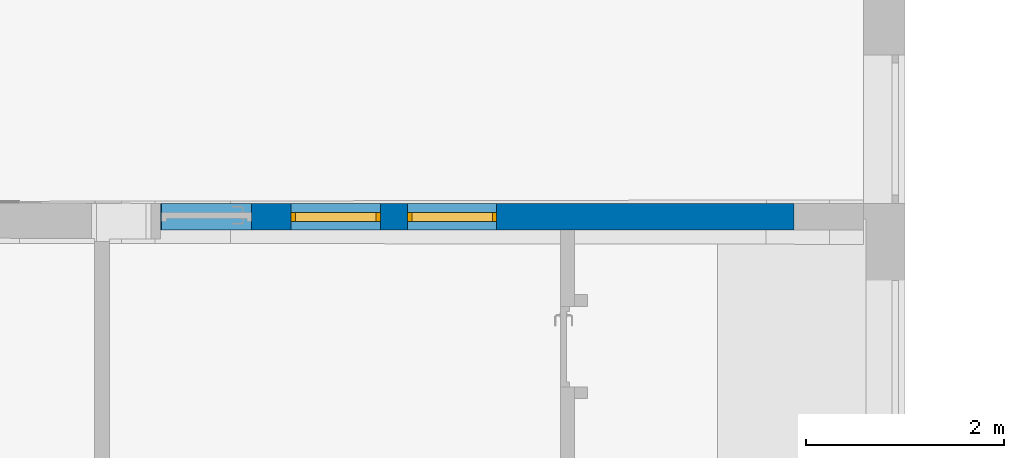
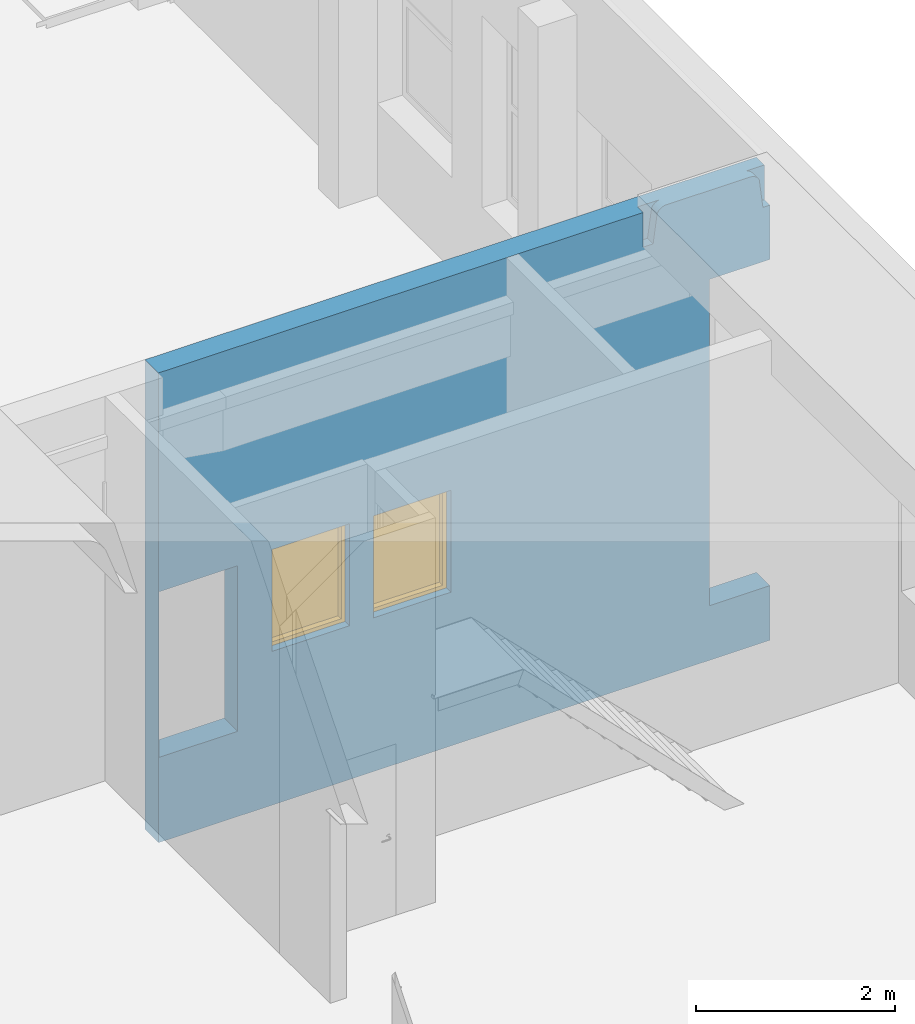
# One storey, part 100 of 301: 2 windows, 1 wall, 3 openings.
"""IFC2X3 building model written with IfcOpenShell, lengths in millimetres."""

from ifc_helpers import new_model, entity, si_unit, converted_unit, derived_unit, money_unit, direction, frame, origin_with_axes, place, context, subcontext, project, spatial, open_shell, faceted_brep, surface_model, source, transform, mapped, material, type_object, element, fill, save


model = new_model("IFC2X3")

# Units and contexts
model_context = context("Model", 3, precision=0.01, world=origin_with_axes(), true_north=direction((0.0, 1.0)))
body_context = subcontext(model_context, "Body", "Model", "MODEL_VIEW")
ifc_project = project(units=[si_unit("LENGTHUNIT", "METRE", prefix="MILLI"), si_unit("AREAUNIT", "SQUARE_METRE"), si_unit("VOLUMEUNIT", "CUBIC_METRE"), converted_unit("PLANEANGLEUNIT", "DEGREE", entity("IfcPlaneAngleMeasure", 0.0174532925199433), si_unit("PLANEANGLEUNIT", "RADIAN"), dimensions=[0, 0, 0, 0, 0, 0, 0]), money_unit("EUR"), converted_unit("TIMEUNIT", "Year", entity("IfcTimeMeasure", 31557600.0), si_unit("TIMEUNIT", "SECOND"), dimensions=[0, 0, 1, 0, 0, 0, 0]), si_unit("MASSUNIT", "GRAM", prefix="KILO"), si_unit("THERMODYNAMICTEMPERATUREUNIT", "DEGREE_CELSIUS"), si_unit("LUMINOUSINTENSITYUNIT", "LUMEN"), si_unit("ENERGYUNIT", "JOULE", prefix="MEGA"), derived_unit("THERMALCONDUCTANCEUNIT", [(si_unit("POWERUNIT", "WATT"), 1), (si_unit("LENGTHUNIT", "METRE"), -1), (si_unit("THERMODYNAMICTEMPERATUREUNIT", "KELVIN"), -1)]), derived_unit("SPECIFICHEATCAPACITYUNIT", [(si_unit("ENERGYUNIT", "JOULE"), 1), (si_unit("MASSUNIT", "GRAM", prefix="KILO"), -1), (si_unit("THERMODYNAMICTEMPERATUREUNIT", "KELVIN"), -1)]), derived_unit("MASSDENSITYUNIT", [(si_unit("MASSUNIT", "GRAM", prefix="KILO"), 1), (si_unit("VOLUMEUNIT", "CUBIC_METRE"), -1)])], contexts=[model_context])

# Site, building, storey
site_placement = place(None, frame((0.0, 0.0, 8650.0), z_axis=(0.0, 0.0, 1.0), x_axis=(1.0, 0.0, 0.0)))
site = spatial("IfcSite", under=ifc_project, at=site_placement, Name="43301:001:0844", CompositionType="ELEMENT")
building_placement = place(site_placement, origin_with_axes())
building = spatial("IfcBuilding", under=site, at=building_placement, Name="Kuressaare Ametikooli tuulikute mehaanikute õppekorpus", CompositionType="ELEMENT")
storey_placement = place(building_placement, origin_with_axes())
storey = spatial("IfcBuildingStorey", under=building, at=storey_placement, Name="1.korrus", CompositionType="ELEMENT", Elevation=0.0)

# Wall, openings, windows
ifc_material = material(Name="GENEERILINE - KONSTRUKTRIOON")
wall_type = type_object("IfcWallType", Name="GENEERILINE - KONSTRUKTRIOON 270", PredefinedType="NOTDEFINED")
wall_placement = place(storey_placement, frame((103647.5122070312, 74565.19261974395, -1000.0), z_axis=(0.0, 0.0, 1.0), x_axis=(-1.0, 0.0, 0.0)))
wall = element("IfcWall", 1, at=wall_placement, inside=storey, type_object=wall_type, material=ifc_material, Name="SS-XX", context=body_context, shape_type="Brep", body=[
    faceted_brep([(557.0435186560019, 269.999999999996, 5711.307632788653), (574.2249064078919, 269.999999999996, 5730.19993142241), (594.999092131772, 269.999999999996, 5745.050932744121), (618.4345847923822, 269.999999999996, 5755.194734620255), (642.5932021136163, 269.999999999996, 5760.0), (1630.032533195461, 269.999999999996, 5760.0), (1654.35116008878, 269.999999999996, 5755.986306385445), (1678.13938203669, 269.999999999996, 5746.154578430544), (1699.084482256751, 269.999999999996, 5731.193122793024), (1716.099046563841, 269.999999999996, 5711.878698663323), (1728.299723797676, 269.999999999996, 5689.214059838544), (1775.113922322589, 269.999999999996, 5335.0), (1891.625828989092, 269.999999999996, 5335.0), (1891.625828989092, 269.999999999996, 5760.0), (7512.258369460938, 269.999999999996, 5760.0), (7512.258369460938, 269.999999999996, 0.0), (420.0000000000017, 269.999999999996, 0.0), (420.0000000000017, 269.999999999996, 669.9999999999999), (1120.000013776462, 269.999999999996, 669.9999999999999), (1120.000013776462, 269.999999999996, 4670.000000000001), (420.0000000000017, 269.999999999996, 4670.000000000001), (419.9999999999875, 269.999999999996, 5335.0), (501.4769658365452, 269.999999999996, 5335.0), (544.2253229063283, 269.999999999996, 5689.221146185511), (6193.933258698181, 269.999999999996, 1885.257244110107), (6193.933258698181, 269.999999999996, 3135.257244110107), (5293.933258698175, 269.999999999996, 3135.257244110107), (5293.933258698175, 269.999999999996, 1885.257244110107), (4120.371742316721, 269.999999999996, 3135.257244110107), (4120.371742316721, 269.999999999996, 1885.257244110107), (5020.371742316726, 269.999999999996, 1885.257244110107), (5020.371742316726, 269.999999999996, 3135.257244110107), (7502.316618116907, 269.999999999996, 1045.0), (7502.316618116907, 269.999999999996, 3075.0), (6592.316618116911, 269.999999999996, 3075.0), (6592.316618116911, 269.999999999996, 1045.0), (557.0435186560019, 157.9670458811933, 5711.307632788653), (574.2249064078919, 157.9670458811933, 5730.19993142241), (594.999092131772, 157.9670458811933, 5745.050932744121), (618.4345847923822, 157.9670458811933, 5755.194734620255), (642.5932021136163, 157.9670458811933, 5760.0), (419.9999999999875, 157.9670458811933, 5760.0), (419.9999999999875, 0.0, 5760.0), (7511.497789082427, 0.0, 5760.0), (1891.625828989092, 157.9670458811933, 5760.0), (1630.032533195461, 157.9670458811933, 5760.0), (1654.35116008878, 157.9670458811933, 5755.986306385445), (1678.13938203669, 157.9670458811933, 5746.154578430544), (1699.084482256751, 157.9670458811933, 5731.193122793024), (1716.099046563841, 157.9670458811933, 5711.878698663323), (1728.299723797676, 157.9670458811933, 5689.214059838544), (1775.113922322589, 157.9670458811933, 5335.0), (1891.625828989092, 157.9670458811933, 5335.0), (7511.497789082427, 0.0, 0.0), (420.0000000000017, 0.0, 0.0), (420.0000000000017, 0.0, 669.9999999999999), (1120.000013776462, 0.0, 669.9999999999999), (1120.000013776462, 0.0, 4670.000000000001), (420.0000000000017, 0.0, 4670.000000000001), (419.9999999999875, 157.9670458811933, 5335.0), (501.4769658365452, 157.9670458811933, 5335.0), (544.2253229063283, 157.9670458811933, 5689.221146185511), (6193.933258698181, 0.0, 1885.257244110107), (6193.933258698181, 0.0, 3135.257244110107), (5293.933258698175, 0.0, 3135.257244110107), (5293.933258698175, 0.0, 1885.257244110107), (4120.371742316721, 0.0, 3135.257244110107), (4120.371742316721, 0.0, 1885.257244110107), (5020.371742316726, 0.0, 1885.257244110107), (5020.371742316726, 0.0, 3135.257244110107), (7502.316618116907, 0.0, 1045.0), (7502.316618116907, 0.0, 3075.0), (6592.316618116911, 0.0, 3075.0), (6592.316618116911, 0.0, 1045.0)], [[[0, 1, 2, 3, 4, 5, 6, 7, 8, 9, 10, 11, 12, 13, 14, 15, 16, 17, 18, 19, 20, 21, 22, 23], [24, 25, 26, 27], [28, 29, 30, 31], [32, 33, 34, 35]], [[1, 0, 36, 37]], [[2, 1, 37, 38]], [[3, 2, 38, 39]], [[4, 3, 39, 40]], [[4, 40, 41, 42, 43, 14, 13, 44, 45, 5]], [[5, 45, 46, 6]], [[7, 6, 46, 47]], [[8, 7, 47, 48]], [[9, 8, 48, 49]], [[10, 9, 49, 50]], [[11, 10, 50, 51]], [[12, 11, 51, 52]], [[44, 13, 12, 52]], [[15, 14, 43, 53]], [[54, 16, 15, 53]], [[17, 16, 54, 55]], [[55, 56, 18, 17]], [[57, 19, 18, 56]], [[58, 20, 19, 57]], [[21, 20, 58, 42, 41, 59]], [[21, 59, 60, 22]], [[23, 22, 60, 61]], [[0, 23, 61, 36]], [[25, 24, 62, 63]], [[64, 26, 25, 63]], [[65, 27, 26, 64]], [[24, 27, 65, 62]], [[28, 66, 67, 29]], [[67, 68, 30, 29]], [[68, 69, 31, 30]], [[31, 69, 66, 28]], [[33, 32, 70, 71]], [[72, 34, 33, 71]], [[73, 35, 34, 72]], [[32, 35, 73, 70]], [[61, 60, 59, 41, 40, 39, 38, 37, 36]], [[42, 58, 57, 56, 55, 54, 53, 43], [65, 64, 63, 62], [69, 68, 67, 66], [73, 72, 71, 70]], [[47, 46, 45, 44, 52, 51, 50, 49, 48]]]),
])
opening_1_placement = place(wall_placement, frame((5743.933258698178, 0.0, 1885.257244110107), z_axis=(0.0, 0.0, 1.0), x_axis=(1.0, 0.0, 0.0)))
opening_1 = element("IfcOpeningElement", 2, at=opening_1_placement, cuts=wall, Name="SA-XX", context=body_context, shape_type="Brep", body=[
    faceted_brep([(450.0000000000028, 90.00000000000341, 0.0), (450.0000000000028, 90.00000000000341, 1250.0), (450.0000000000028, -1.000000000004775, 1250.0), (450.0000000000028, -1.000000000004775, 0.0), (450.0000000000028, 271.0000000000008, 0.0), (450.0000000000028, 271.0000000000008, 1250.0), (-450.0000000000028, 90.00000000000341, 1250.0), (-450.0000000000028, -1.000000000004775, 1250.0), (-450.0000000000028, 271.0000000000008, 1250.0), (-450.0000000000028, -1.000000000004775, 0.0), (-450.0000000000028, 90.00000000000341, 0.0), (-450.0000000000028, 271.0000000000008, 0.0)], [[[0, 1, 2, 3]], [[1, 0, 4, 5]], [[6, 7, 2, 1, 5, 8]], [[7, 9, 3, 2]], [[0, 3, 9, 10, 11, 4]], [[5, 4, 11, 8]], [[6, 10, 9, 7]], [[10, 6, 8, 11]]]),
])
opening_2_placement = place(wall_placement, frame((4570.371742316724, 0.0, 1885.257244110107), z_axis=(0.0, 0.0, 1.0), x_axis=(1.0, 0.0, 0.0)))
opening_2 = element("IfcOpeningElement", 3, at=opening_2_placement, cuts=wall, Name="SA-XX", context=body_context, shape_type="Brep", body=[
    faceted_brep([(450.0000000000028, 90.00000000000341, 0.0), (450.0000000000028, 90.00000000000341, 1250.0), (450.0000000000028, -1.000000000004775, 1250.0), (450.0000000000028, -1.000000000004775, 0.0), (450.0000000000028, 271.0000000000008, 0.0), (450.0000000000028, 271.0000000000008, 1250.0), (-450.0000000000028, 90.00000000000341, 1250.0), (-450.0000000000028, -1.000000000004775, 1250.0), (-450.0000000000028, 271.0000000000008, 1250.0), (-450.0000000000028, -1.000000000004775, 0.0), (-450.0000000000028, 90.00000000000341, 0.0), (-450.0000000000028, 271.0000000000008, 0.0)], [[[0, 1, 2, 3]], [[1, 0, 4, 5]], [[6, 7, 2, 1, 5, 8]], [[7, 9, 3, 2]], [[0, 3, 9, 10, 11, 4]], [[5, 4, 11, 8]], [[6, 10, 9, 7]], [[10, 6, 8, 11]]]),
])
opening_3_placement = place(wall_placement, frame((7047.316618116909, 0.0, 1045.0), z_axis=(0.0, 0.0, 1.0), x_axis=(1.0, 0.0, 0.0)))
element("IfcOpeningElement", 4, at=opening_3_placement, cuts=wall, Name="SU-XX", context=body_context, shape_type="Brep", body=[
    faceted_brep([(454.9999999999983, 90.00000000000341, 0.0), (454.9999999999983, 90.00000000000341, 2030.0), (454.9999999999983, -1.000000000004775, 2030.0), (454.9999999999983, -1.000000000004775, 0.0), (454.9999999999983, 271.0000000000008, 0.0), (454.9999999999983, 271.0000000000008, 2030.0), (-454.9999999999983, 90.00000000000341, 2030.0), (-454.9999999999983, -1.000000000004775, 2030.0), (-454.9999999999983, 271.0000000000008, 2030.0), (-454.9999999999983, -1.000000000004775, 0.0), (-454.9999999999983, 90.00000000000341, 0.0), (-454.9999999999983, 271.0000000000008, 0.0)], [[[0, 1, 2, 3]], [[1, 0, 4, 5]], [[6, 7, 2, 1, 5, 8]], [[7, 9, 3, 2]], [[0, 3, 9, 10, 11, 4]], [[5, 4, 11, 8]], [[6, 10, 9, 7]], [[10, 6, 8, 11]]]),
])
window_style = type_object("IfcWindowStyle", Name="Window 27", ConstructionType="NOTDEFINED", OperationType="SINGLE_PANEL", ParameterTakesPrecedence=False, Sizeable=False)
shared_shape = source(origin_with_axes(), body_context, "Body", "SurfaceModel", [
    faceted_brep([(-405.0, -90.00000000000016, 1205.0), (-405.0, 0.0, 1205.0), (-450.0, 0.0, 1205.0), (-450.0, -90.00000000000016, 1205.0), (-405.0, -90.0, 44.99999999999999), (-405.0, 0.0, 45.00000000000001), (-450.0, 0.0, 45.00000000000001), (-450.0, -90.0, 44.99999999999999)], [[[0, 1, 2, 3]], [[4, 5, 1, 0]], [[1, 5, 6, 2]], [[3, 2, 6, 7]], [[0, 3, 7, 4]], [[7, 6, 5, 4]]]),
    faceted_brep([(405.0, -90.0, 44.99999999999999), (405.0, 0.0, 45.00000000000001), (450.0, 0.0, 45.00000000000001), (450.0, -90.0, 44.99999999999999), (405.0, -90.00000000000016, 1205.0), (405.0, 0.0, 1205.0), (450.0, 0.0, 1205.0), (450.0, -90.00000000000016, 1205.0)], [[[0, 1, 2, 3]], [[4, 5, 1, 0]], [[1, 5, 6, 2]], [[3, 2, 6, 7]], [[0, 3, 7, 4]], [[7, 6, 5, 4]]]),
    faceted_brep([(-405.0, -90.0, 44.99999999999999), (-405.0, 0.0, 45.00000000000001), (-450.0, 0.0, 45.00000000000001), (-450.0, -90.0, 44.99999999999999), (405.0, -90.0, 44.99999999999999), (405.0, 0.0, 45.00000000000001), (450.0, 0.0, 45.00000000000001), (450.0, 0.0, 0.0), (-450.0, 0.0, 0.0), (-450.0, -90.0, 0.0), (450.0, -90.0, 0.0), (450.0, -90.0, 44.99999999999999)], [[[0, 1, 2, 3]], [[4, 5, 1, 0]], [[1, 5, 6, 7, 8, 2]], [[3, 2, 8, 9]], [[0, 3, 9, 10, 11, 4]], [[11, 6, 5, 4]], [[10, 7, 6, 11]], [[9, 8, 7, 10]]]),
    faceted_brep([(405.0, -90.00000000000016, 1205.0), (405.0, 0.0, 1205.0), (450.0, 0.0, 1205.0), (450.0, -90.00000000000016, 1205.0), (-405.0, -90.00000000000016, 1205.0), (-405.0, 0.0, 1205.0), (-450.0, 0.0, 1205.0), (-450.0, 0.0, 1250.0), (450.0, 0.0, 1250.0), (450.0, -90.00000000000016, 1250.0), (-450.0, -90.00000000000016, 1250.0), (-450.0, -90.00000000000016, 1205.0)], [[[0, 1, 2, 3]], [[4, 5, 1, 0]], [[1, 5, 6, 7, 8, 2]], [[3, 2, 8, 9]], [[0, 3, 9, 10, 11, 4]], [[11, 6, 5, 4]], [[10, 7, 6, 11]], [[9, 8, 7, 10]]]),
    surface_model("IfcShellBasedSurfaceModel", [(-405.0, -84.99999999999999, 44.99999999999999), (405.0, -84.99999999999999, 44.99999999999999), (405.0, -85.00000000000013, 1205.0), (-405.0, -85.00000000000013, 1205.0)], [open_shell([[[0, 1, 2, 3]]])]),
    surface_model("IfcShellBasedSurfaceModel", [(-405.0, -64.99999999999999, 44.99999999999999), (-405.0, -65.00000000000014, 1205.0), (405.0, -65.00000000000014, 1205.0), (405.0, -64.99999999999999, 44.99999999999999)], [open_shell([[[0, 1, 2, 3]]])]),
])
window_1_placement = place(opening_1_placement, frame((-450.0000000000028, 0.0, 0.0), z_axis=(0.0, 0.0, 1.0), x_axis=(1.0, 0.0, 0.0)))
window_1 = element("IfcWindow", 5, at=window_1_placement, inside=storey, type_object=window_style, Name="SA-XX", OverallHeight=1250.0, OverallWidth=900.0, context=body_context, shape_type="MappedRepresentation", body=[
    mapped(shared_shape, transform((450.0000000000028, 180.0000000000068, 0.0))),
])
fill(opening_1, window_1)
window_2_placement = place(opening_2_placement, frame((-450.0000000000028, 0.0, 0.0), z_axis=(0.0, 0.0, 1.0), x_axis=(1.0, 0.0, 0.0)))
window_2 = element("IfcWindow", 6, at=window_2_placement, inside=storey, type_object=window_style, Name="SA-XX", OverallHeight=1250.0, OverallWidth=900.0, context=body_context, shape_type="MappedRepresentation", body=[
    mapped(shared_shape, transform((450.0000000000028, 180.0000000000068, 0.0))),
])
fill(opening_2, window_2)

save(model, "model.ifc")
